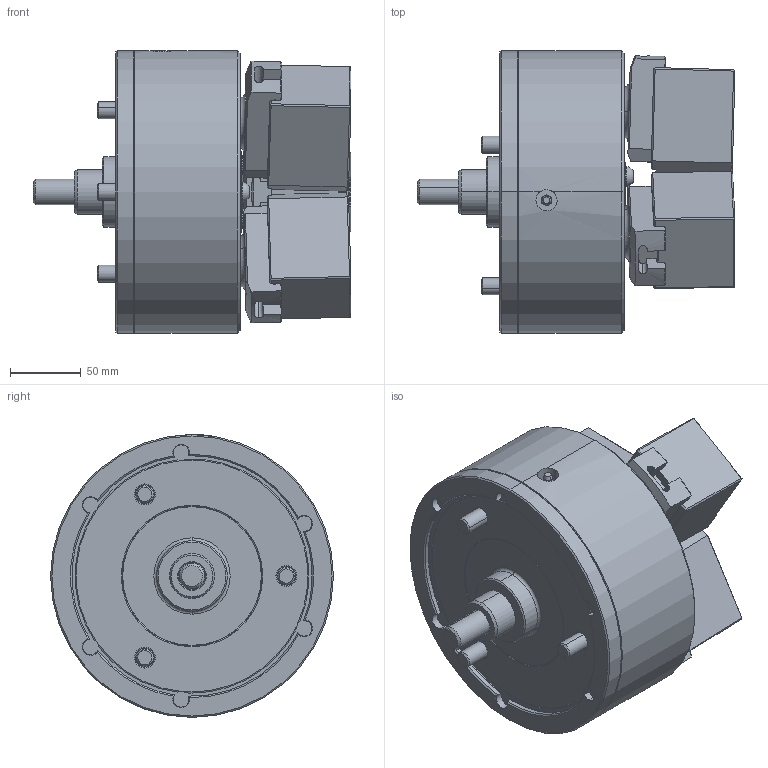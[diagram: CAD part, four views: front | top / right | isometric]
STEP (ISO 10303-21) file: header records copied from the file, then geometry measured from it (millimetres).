
FILE_DESCRIPTION (( 'STEP AP214' ), '1' );
FILE_NAME ('PW-08_OC.STEP', '2019-10-16T09:44:18', ( '' ), ( '' ), 'SwSTEP 2.0', 'SolidWorks 2017', '' );
FILE_SCHEMA (( 'AUTOMOTIVE_DESIGN' ));
Length unit declared in the file: millimetre
Products named in the file (5): PW-08_OC; 61P322995; 61P420336; 0030112020; 結合_OD
Assembly tree (13 placements, depth 2):
  PW-08_OC
    61P322995  x3
    61P420336  x3
    0030112020  x6
    結合_OD
Bounding box: 224.79 x 200 x 200 mm (x, y, z)
Volume: 3460539.8 mm3; surface area: 316726.6 mm2
Topology: 13 solids, 14 shells, 1769 faces, 4378 edges, 2746 vertices
Faces by surface type: plane 859, cone 304, cylinder 275, bspline 265, torus 66
Entity records: 54556 total; most frequent: CARTESIAN_POINT 21023, ORIENTED_EDGE 7382, DIRECTION 6012, EDGE_CURVE 3691, VERTEX_POINT 2343, AXIS2_PLACEMENT_3D 2009, VECTOR 1994, LINE 1994
